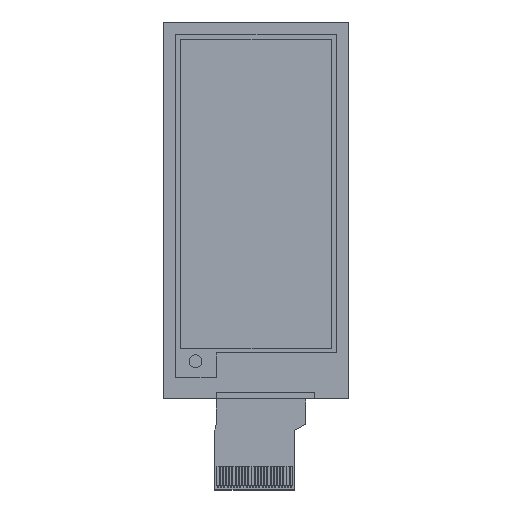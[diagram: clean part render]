
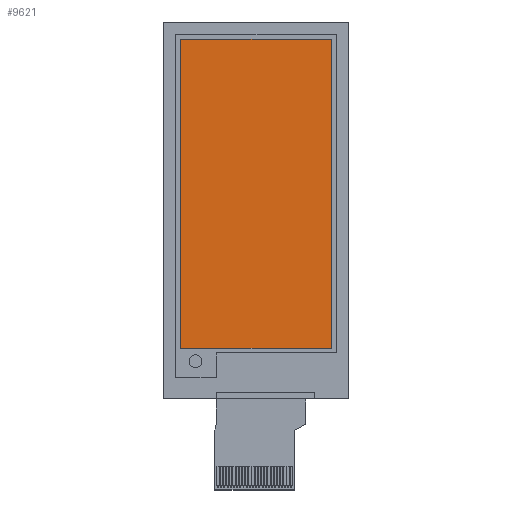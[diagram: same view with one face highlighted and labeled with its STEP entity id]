
A CAD part, top view. The second image highlights one B-rep face of the part: STEP entity #9621.
In plain terms, the highlighted planar face has unit normal (0, 0, 1).
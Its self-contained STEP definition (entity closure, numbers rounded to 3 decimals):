
#267 = PLANE ( 'NONE',  #1151 ) ;
#393 = DIRECTION ( 'NONE',  ( 0., 1., 0. ) ) ;
#411 = DIRECTION ( 'NONE',  ( 1., 0., 0. ) ) ;
#960 = CARTESIAN_POINT ( 'NONE',  ( 0., -24.275, 0.3 ) ) ;
#1069 = FACE_OUTER_BOUND ( 'NONE', #6958, .T. ) ;
#1151 = AXIS2_PLACEMENT_3D ( 'NONE', #3218, #7804, #9471 ) ;
#1519 = CARTESIAN_POINT ( 'NONE',  ( 11.855, 0., 0.3 ) ) ;
#1825 = EDGE_CURVE ( 'NONE', #6714, #11107, #7289, .T. ) ;
#2149 = EDGE_CURVE ( 'NONE', #4355, #6714, #4024, .T. ) ;
#2583 = VERTEX_POINT ( 'NONE', #11306 ) ;
#2974 = ORIENTED_EDGE ( 'NONE', *, *, #1825, .F. ) ;
#2984 = EDGE_CURVE ( 'NONE', #11107, #2583, #7206, .T. ) ;
#3218 = CARTESIAN_POINT ( 'NONE',  ( 0., 0., 0.3 ) ) ;
#3602 = DIRECTION ( 'NONE',  ( 0., -1., 0. ) ) ;
#4024 = LINE ( 'NONE', #8778, #5096 ) ;
#4299 = VECTOR ( 'NONE', #10187, 1000. ) ;
#4355 = VERTEX_POINT ( 'NONE', #7530 ) ;
#4442 = VECTOR ( 'NONE', #3602, 1000. ) ;
#4612 = EDGE_CURVE ( 'NONE', #2583, #4355, #10136, .T. ) ;
#5096 = VECTOR ( 'NONE', #393, 1000. ) ;
#5484 = ORIENTED_EDGE ( 'NONE', *, *, #4612, .F. ) ;
#6278 = ORIENTED_EDGE ( 'NONE', *, *, #2149, .F. ) ;
#6714 = VERTEX_POINT ( 'NONE', #9036 ) ;
#6958 = EDGE_LOOP ( 'NONE', ( #6278, #5484, #9676, #2974 ) ) ;
#7206 = LINE ( 'NONE', #1519, #4442 ) ;
#7289 = LINE ( 'NONE', #10905, #10723 ) ;
#7530 = CARTESIAN_POINT ( 'NONE',  ( -11.855, -24.275, 0.3 ) ) ;
#7674 = CARTESIAN_POINT ( 'NONE',  ( 11.855, 24.275, 0.3 ) ) ;
#7804 = DIRECTION ( 'NONE',  ( 0., 0., 1. ) ) ;
#8778 = CARTESIAN_POINT ( 'NONE',  ( -11.855, 0., 0.3 ) ) ;
#9036 = CARTESIAN_POINT ( 'NONE',  ( -11.855, 24.275, 0.3 ) ) ;
#9471 = DIRECTION ( 'NONE',  ( 1., 0., 0. ) ) ;
#9621 = ADVANCED_FACE ( 'NONE', ( #1069 ), #267, .T. ) ;
#9676 = ORIENTED_EDGE ( 'NONE', *, *, #2984, .F. ) ;
#10136 = LINE ( 'NONE', #960, #4299 ) ;
#10187 = DIRECTION ( 'NONE',  ( -1., 0., 0. ) ) ;
#10723 = VECTOR ( 'NONE', #411, 1000. ) ;
#10905 = CARTESIAN_POINT ( 'NONE',  ( 0., 24.275, 0.3 ) ) ;
#11107 = VERTEX_POINT ( 'NONE', #7674 ) ;
#11306 = CARTESIAN_POINT ( 'NONE',  ( 11.855, -24.275, 0.3 ) ) ;
